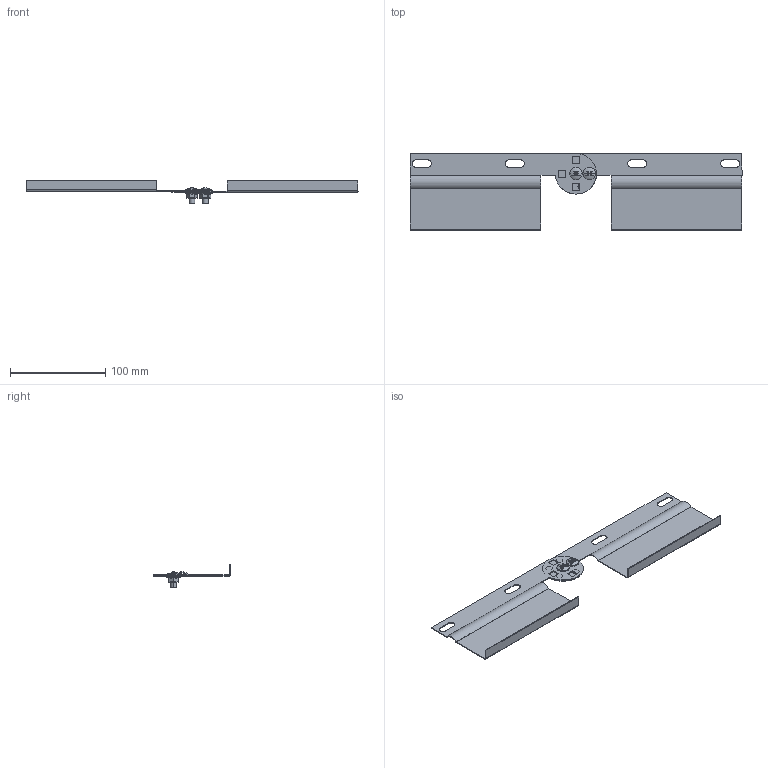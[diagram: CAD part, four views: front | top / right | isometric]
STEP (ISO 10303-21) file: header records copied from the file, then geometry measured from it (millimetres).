
FILE_DESCRIPTION (( 'STEP AP203' ), '1' );
FILE_NAME ('JUER-A_Block_H100 ZZZZ X YYYY [pieza1].step', '2023-07-27T18:47:33', ( '' ), ( '' ), 'SwSTEP 2.0', 'SolidWorks 2022', '' );
FILE_SCHEMA (( 'CONFIG_CONTROL_DESIGN' ));
Length unit declared in the file: millimetre
Products named in the file (6): Tuerca M6 DIN 6923_ZZZZ x YYYY; JUER-A_H100_der.SLDPRT_100; JUER-A_Block_H100 ZZZZ X YYYY [pieza1]; JUER-A_H100_izq.SLDPRT_100; Conjunto B1 tornillo + tuerca DIN6923_e chapa 2; tornillo B1 M6x14_M6x14
Assembly tree (6 placements, depth 3):
  JUER-A_Block_H100 ZZZZ X YYYY [pieza1]
    JUER-A_H100_izq.SLDPRT_100
    JUER-A_H100_der.SLDPRT_100
    Conjunto B1 tornillo + tuerca DIN6923_e chapa 2  x2
      tornillo B1 M6x14_M6x14
      Tuerca M6 DIN 6923_ZZZZ x YYYY
Bounding box: 348.5 x 81 x 25.14 mm (x, y, z)
Volume: 24879.9 mm3; surface area: 60313.5 mm2
Topology: 6 solids, 6 shells, 398 faces, 990 edges, 596 vertices
Faces by surface type: cylinder 134, plane 124, torus 84, sphere 28, bspline 28
Entity records: 9035 total; most frequent: CARTESIAN_POINT 2301, DIRECTION 1329, ORIENTED_EDGE 1256, EDGE_CURVE 628, AXIS2_PLACEMENT_3D 526, VERTEX_POINT 388, EDGE_LOOP 284, CIRCLE 280
